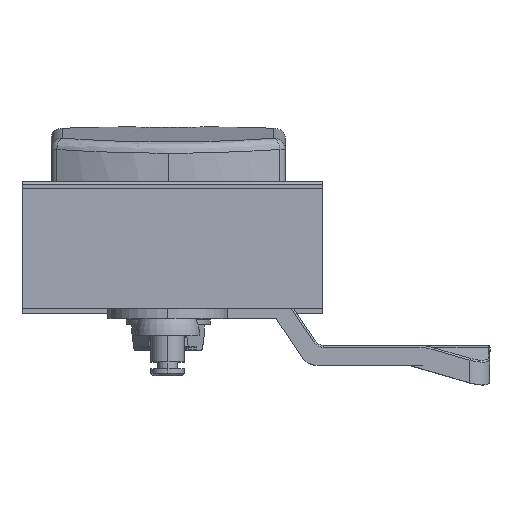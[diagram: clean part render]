
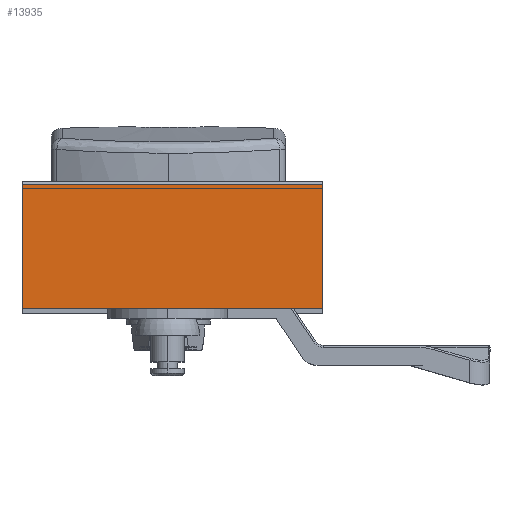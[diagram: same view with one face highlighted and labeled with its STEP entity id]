
A CAD part, top view. The second image highlights one B-rep face of the part: STEP entity #13935.
In plain terms, the highlighted planar face has unit normal (0, 0, 1).
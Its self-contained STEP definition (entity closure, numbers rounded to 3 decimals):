
#10221 = DIRECTION ( 'NONE',  ( 1., 0., 0. ) ) ;
#10223 = VECTOR ( 'NONE', #10221, 1000. ) ;
#10224 = CARTESIAN_POINT ( 'NONE',  ( 156.305, 219.411, 175.993 ) ) ;
#10225 = LINE ( 'NONE', #10224, #10223 ) ;
#10661 = CARTESIAN_POINT ( 'NONE',  ( 276.305, 219.411, 175.993 ) ) ;
#10939 = DIRECTION ( 'NONE',  ( 1., 0., 0. ) ) ;
#10941 = VECTOR ( 'NONE', #10939, 1000. ) ;
#10943 = CARTESIAN_POINT ( 'NONE',  ( 156.305, 237.911, 175.993 ) ) ;
#10944 = LINE ( 'NONE', #10943, #10941 ) ;
#10956 = CARTESIAN_POINT ( 'NONE',  ( 276.305, 237.911, 175.993 ) ) ;
#11104 = FACE_OUTER_BOUND ( 'NONE', #14020, .T. ) ;
#11208 = CARTESIAN_POINT ( 'NONE',  ( 231.351, 219.411, 175.993 ) ) ;
#11222 = DIRECTION ( 'NONE',  ( 0., -1., 0. ) ) ;
#11223 = DIRECTION ( 'NONE',  ( 0., 0., 1. ) ) ;
#11232 = CARTESIAN_POINT ( 'NONE',  ( 231.351, 237.911, 175.993 ) ) ;
#11234 = PLANE ( 'NONE',  #11263 ) ;
#11235 = DIRECTION ( 'NONE',  ( 0., -1., 0. ) ) ;
#11237 = VECTOR ( 'NONE', #11235, 1000. ) ;
#11239 = CARTESIAN_POINT ( 'NONE',  ( 276.305, 237.411, 175.993 ) ) ;
#11242 = CARTESIAN_POINT ( 'NONE',  ( 156.305, 237.911, 175.993 ) ) ;
#11262 = LINE ( 'NONE', #11239, #11237 ) ;
#11263 = AXIS2_PLACEMENT_3D ( 'NONE', #11242, #11223, #11222 ) ;
#11777 = DIRECTION ( 'NONE',  ( 0., 1., 0. ) ) ;
#11778 = VECTOR ( 'NONE', #11777, 1000. ) ;
#11779 = CARTESIAN_POINT ( 'NONE',  ( 231.351, 217.013, 175.993 ) ) ;
#11780 = LINE ( 'NONE', #11779, #11778 ) ;
#13749 = EDGE_CURVE ( 'NONE', #13953, #13826, #10225, .T. ) ;
#13826 = VERTEX_POINT ( 'NONE', #10661 ) ;
#13834 = ORIENTED_EDGE ( 'NONE', *, *, #13933, .F. ) ;
#13836 = EDGE_CURVE ( 'NONE', #13936, #13837, #10944, .T. ) ;
#13837 = VERTEX_POINT ( 'NONE', #10956 ) ;
#13866 = ORIENTED_EDGE ( 'NONE', *, *, #14005, .F. ) ;
#13933 = EDGE_CURVE ( 'NONE', #13837, #13826, #11262, .T. ) ;
#13935 = ADVANCED_FACE ( 'NONE', ( #11104 ), #11234, .T. ) ;
#13936 = VERTEX_POINT ( 'NONE', #11232 ) ;
#13939 = ORIENTED_EDGE ( 'NONE', *, *, #13749, .T. ) ;
#13953 = VERTEX_POINT ( 'NONE', #11208 ) ;
#13955 = ORIENTED_EDGE ( 'NONE', *, *, #13836, .F. ) ;
#14005 = EDGE_CURVE ( 'NONE', #13953, #13936, #11780, .T. ) ;
#14020 = EDGE_LOOP ( 'NONE', ( #13866, #13939, #13834, #13955 ) ) ;
